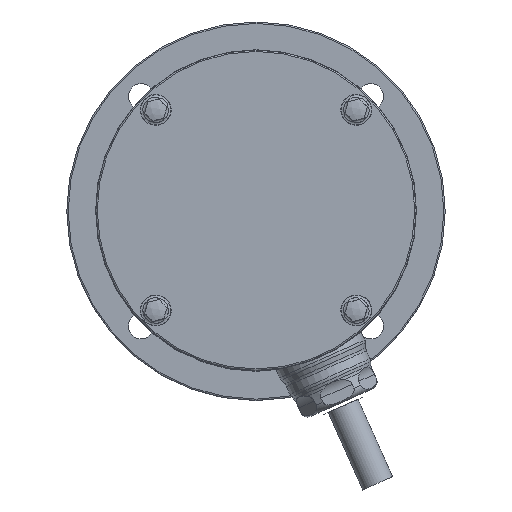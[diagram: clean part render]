
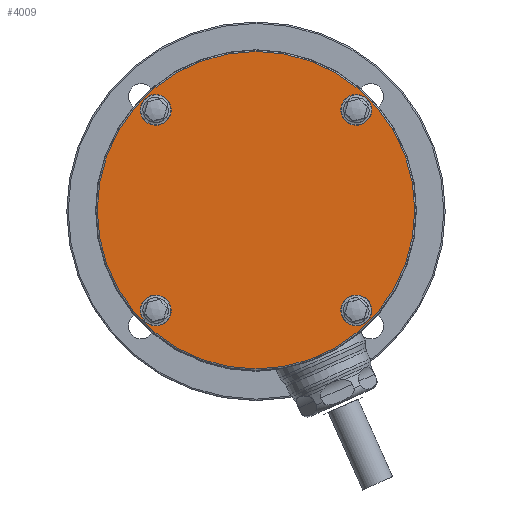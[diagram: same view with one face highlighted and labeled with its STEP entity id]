
A CAD part, top view. The second image highlights one B-rep face of the part: STEP entity #4009.
In plain terms, the highlighted planar face has unit normal (0, 0, 1).
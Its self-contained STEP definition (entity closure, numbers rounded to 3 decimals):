
#617=FACE_BOUND('',#1037,.T.);
#618=FACE_BOUND('',#1038,.T.);
#619=FACE_BOUND('',#1039,.T.);
#620=FACE_BOUND('',#1040,.T.);
#668=PLANE('',#4440);
#815=FACE_OUTER_BOUND('',#1036,.T.);
#1036=EDGE_LOOP('',(#3105,#3106));
#1037=EDGE_LOOP('',(#3107));
#1038=EDGE_LOOP('',(#3108));
#1039=EDGE_LOOP('',(#3109));
#1040=EDGE_LOOP('',(#3110));
#1209=CIRCLE('',#4234,5.45);
#1243=CIRCLE('',#4297,5.45);
#1324=CIRCLE('',#4441,56.2);
#1325=CIRCLE('',#4442,56.2);
#1326=CIRCLE('',#4443,5.45);
#1327=CIRCLE('',#4444,5.45);
#1511=VERTEX_POINT('',#6039);
#1568=VERTEX_POINT('',#6420);
#1689=VERTEX_POINT('',#7325);
#1690=VERTEX_POINT('',#7326);
#1691=VERTEX_POINT('',#7329);
#1692=VERTEX_POINT('',#7331);
#1935=EDGE_CURVE('',#1511,#1511,#1209,.T.);
#2020=EDGE_CURVE('',#1568,#1568,#1243,.T.);
#2200=EDGE_CURVE('',#1689,#1690,#1324,.T.);
#2201=EDGE_CURVE('',#1690,#1689,#1325,.T.);
#2202=EDGE_CURVE('',#1691,#1691,#1326,.T.);
#2203=EDGE_CURVE('',#1692,#1692,#1327,.T.);
#3105=ORIENTED_EDGE('',*,*,#2200,.F.);
#3106=ORIENTED_EDGE('',*,*,#2201,.F.);
#3107=ORIENTED_EDGE('',*,*,#2202,.T.);
#3108=ORIENTED_EDGE('',*,*,#1935,.T.);
#3109=ORIENTED_EDGE('',*,*,#2203,.T.);
#3110=ORIENTED_EDGE('',*,*,#2020,.T.);
#4009=ADVANCED_FACE('',(#815,#617,#618,#619,#620),#668,.T.);
#4234=AXIS2_PLACEMENT_3D('',#6041,#4848,#4849);
#4297=AXIS2_PLACEMENT_3D('',#6422,#5001,#5002);
#4440=AXIS2_PLACEMENT_3D('',#7324,#5338,#5339);
#4441=AXIS2_PLACEMENT_3D('',#7327,#5340,#5341);
#4442=AXIS2_PLACEMENT_3D('',#7328,#5342,#5343);
#4443=AXIS2_PLACEMENT_3D('',#7330,#5344,#5345);
#4444=AXIS2_PLACEMENT_3D('',#7332,#5346,#5347);
#4848=DIRECTION('center_axis',(0.,0.,
-1.));
#4849=DIRECTION('ref_axis',(0.97,0.245,0.));
#5001=DIRECTION('center_axis',(0.,0.,
-1.));
#5002=DIRECTION('ref_axis',(0.97,0.245,0.));
#5338=DIRECTION('center_axis',(0.,0.,
1.));
#5339=DIRECTION('ref_axis',(-1.,0.,0.));
#5340=DIRECTION('center_axis',(0.,0.,
-1.));
#5341=DIRECTION('ref_axis',(0.,1.,0.));
#5342=DIRECTION('center_axis',(0.,0.,
-1.));
#5343=DIRECTION('ref_axis',(0.,1.,0.));
#5344=DIRECTION('center_axis',(0.,0.,
-1.));
#5345=DIRECTION('ref_axis',(0.97,0.245,0.));
#5346=DIRECTION('center_axis',(0.,0.,
-1.));
#5347=DIRECTION('ref_axis',(0.97,0.245,0.));
#6039=CARTESIAN_POINT('',(30.212,-36.83,225.));
#6041=CARTESIAN_POINT('Origin',(35.497,-35.497,225.));
#6420=CARTESIAN_POINT('',(30.212,34.164,225.));
#6422=CARTESIAN_POINT('Origin',(35.497,35.497,225.));
#7324=CARTESIAN_POINT('Origin',(0.,-56.7,
225.));
#7325=CARTESIAN_POINT('',(0.,-56.2,225.));
#7326=CARTESIAN_POINT('',(-56.2,0.,225.));
#7327=CARTESIAN_POINT('Origin',(0.,0.,
225.));
#7328=CARTESIAN_POINT('Origin',(0.,0.,
225.));
#7329=CARTESIAN_POINT('',(-40.781,-36.83,225.));
#7330=CARTESIAN_POINT('Origin',(-35.497,-35.497,225.));
#7331=CARTESIAN_POINT('',(-40.781,34.164,225.));
#7332=CARTESIAN_POINT('Origin',(-35.497,35.497,225.));
